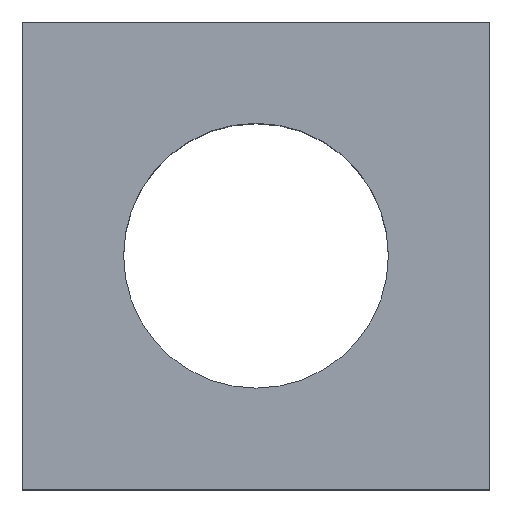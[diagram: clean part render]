
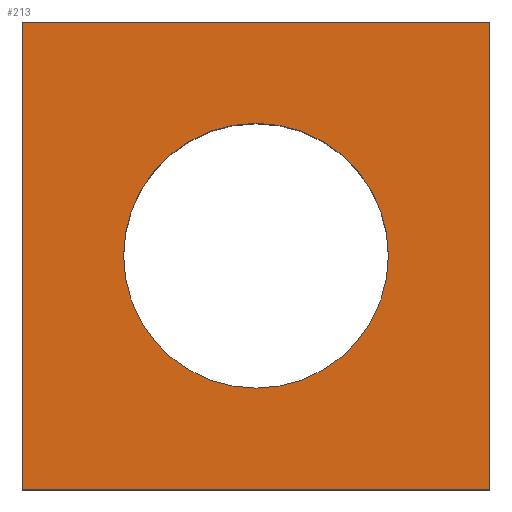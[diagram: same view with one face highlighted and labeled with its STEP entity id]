
A CAD part, top view. The second image highlights one B-rep face of the part: STEP entity #213.
In plain terms, the highlighted planar face has unit normal (0, 0, 1).
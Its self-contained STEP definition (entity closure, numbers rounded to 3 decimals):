
#21 = EDGE_CURVE('',#22,#24,#26,.T.);
#22 = VERTEX_POINT('',#23);
#23 = CARTESIAN_POINT('',(6.,45.,153.));
#24 = VERTEX_POINT('',#25);
#25 = CARTESIAN_POINT('',(6.,39.,153.));
#26 = SURFACE_CURVE('',#27,(#31,#43),.PCURVE_S1.);
#27 = LINE('',#28,#29);
#28 = CARTESIAN_POINT('',(6.,39.,153.));
#29 = VECTOR('',#30,1.);
#30 = DIRECTION('',(0.,-1.,0.));
#31 = PCURVE('',#32,#37);
#32 = PLANE('',#33);
#33 = AXIS2_PLACEMENT_3D('',#34,#35,#36);
#34 = CARTESIAN_POINT('',(6.,39.,149.));
#35 = DIRECTION('',(1.,0.,0.));
#36 = DIRECTION('',(0.,0.,1.));
#37 = DEFINITIONAL_REPRESENTATION('',(#38),#42);
#38 = LINE('',#39,#40);
#39 = CARTESIAN_POINT('',(4.,0.));
#40 = VECTOR('',#41,1.);
#41 = DIRECTION('',(0.,1.));
#42 = ( GEOMETRIC_REPRESENTATION_CONTEXT(2) 
PARAMETRIC_REPRESENTATION_CONTEXT() REPRESENTATION_CONTEXT('2D SPACE',''
  ) );
#43 = PCURVE('',#44,#49);
#44 = PLANE('',#45);
#45 = AXIS2_PLACEMENT_3D('',#46,#47,#48);
#46 = CARTESIAN_POINT('',(6.,39.,153.));
#47 = DIRECTION('',(0.,0.,1.));
#48 = DIRECTION('',(1.,0.,0.));
#49 = DEFINITIONAL_REPRESENTATION('',(#50),#54);
#50 = LINE('',#51,#52);
#51 = CARTESIAN_POINT('',(0.,0.));
#52 = VECTOR('',#53,1.);
#53 = DIRECTION('',(0.,-1.));
#54 = ( GEOMETRIC_REPRESENTATION_CONTEXT(2) 
PARAMETRIC_REPRESENTATION_CONTEXT() REPRESENTATION_CONTEXT('2D SPACE',''
  ) );
#72 = PLANE('',#73);
#73 = AXIS2_PLACEMENT_3D('',#74,#75,#76);
#74 = CARTESIAN_POINT('',(6.,45.,149.));
#75 = DIRECTION('',(0.,1.,0.));
#76 = DIRECTION('',(0.,0.,1.));
#126 = PLANE('',#127);
#127 = AXIS2_PLACEMENT_3D('',#128,#129,#130);
#128 = CARTESIAN_POINT('',(6.,39.,149.));
#129 = DIRECTION('',(0.,1.,0.));
#130 = DIRECTION('',(0.,0.,1.));
#144 = VERTEX_POINT('',#145);
#145 = CARTESIAN_POINT('',(12.,39.,153.));
#159 = PLANE('',#160);
#160 = AXIS2_PLACEMENT_3D('',#161,#162,#163);
#161 = CARTESIAN_POINT('',(12.,39.,149.));
#162 = DIRECTION('',(1.,0.,0.));
#163 = DIRECTION('',(0.,0.,1.));
#171 = EDGE_CURVE('',#24,#144,#172,.T.);
#172 = SURFACE_CURVE('',#173,(#177,#184),.PCURVE_S1.);
#173 = LINE('',#174,#175);
#174 = CARTESIAN_POINT('',(6.,39.,153.));
#175 = VECTOR('',#176,1.);
#176 = DIRECTION('',(1.,0.,0.));
#177 = PCURVE('',#126,#178);
#178 = DEFINITIONAL_REPRESENTATION('',(#179),#183);
#179 = LINE('',#180,#181);
#180 = CARTESIAN_POINT('',(4.,0.));
#181 = VECTOR('',#182,1.);
#182 = DIRECTION('',(0.,1.));
#183 = ( GEOMETRIC_REPRESENTATION_CONTEXT(2) 
PARAMETRIC_REPRESENTATION_CONTEXT() REPRESENTATION_CONTEXT('2D SPACE',''
  ) );
#184 = PCURVE('',#44,#185);
#185 = DEFINITIONAL_REPRESENTATION('',(#186),#190);
#186 = LINE('',#187,#188);
#187 = CARTESIAN_POINT('',(0.,0.));
#188 = VECTOR('',#189,1.);
#189 = DIRECTION('',(1.,0.));
#190 = ( GEOMETRIC_REPRESENTATION_CONTEXT(2) 
PARAMETRIC_REPRESENTATION_CONTEXT() REPRESENTATION_CONTEXT('2D SPACE',''
  ) );
#213 = ADVANCED_FACE('',(#214,#262),#44,.T.);
#214 = FACE_BOUND('',#215,.T.);
#215 = EDGE_LOOP('',(#216,#217,#218,#241));
#216 = ORIENTED_EDGE('',*,*,#21,.T.);
#217 = ORIENTED_EDGE('',*,*,#171,.T.);
#218 = ORIENTED_EDGE('',*,*,#219,.T.);
#219 = EDGE_CURVE('',#144,#220,#222,.T.);
#220 = VERTEX_POINT('',#221);
#221 = CARTESIAN_POINT('',(12.,45.,153.));
#222 = SURFACE_CURVE('',#223,(#227,#234),.PCURVE_S1.);
#223 = LINE('',#224,#225);
#224 = CARTESIAN_POINT('',(12.,39.,153.));
#225 = VECTOR('',#226,1.);
#226 = DIRECTION('',(0.,1.,0.));
#227 = PCURVE('',#44,#228);
#228 = DEFINITIONAL_REPRESENTATION('',(#229),#233);
#229 = LINE('',#230,#231);
#230 = CARTESIAN_POINT('',(6.,0.));
#231 = VECTOR('',#232,1.);
#232 = DIRECTION('',(0.,1.));
#233 = ( GEOMETRIC_REPRESENTATION_CONTEXT(2) 
PARAMETRIC_REPRESENTATION_CONTEXT() REPRESENTATION_CONTEXT('2D SPACE',''
  ) );
#234 = PCURVE('',#159,#235);
#235 = DEFINITIONAL_REPRESENTATION('',(#236),#240);
#236 = LINE('',#237,#238);
#237 = CARTESIAN_POINT('',(4.,0.));
#238 = VECTOR('',#239,1.);
#239 = DIRECTION('',(0.,-1.));
#240 = ( GEOMETRIC_REPRESENTATION_CONTEXT(2) 
PARAMETRIC_REPRESENTATION_CONTEXT() REPRESENTATION_CONTEXT('2D SPACE',''
  ) );
#241 = ORIENTED_EDGE('',*,*,#242,.F.);
#242 = EDGE_CURVE('',#22,#220,#243,.T.);
#243 = SURFACE_CURVE('',#244,(#248,#255),.PCURVE_S1.);
#244 = LINE('',#245,#246);
#245 = CARTESIAN_POINT('',(6.,45.,153.));
#246 = VECTOR('',#247,1.);
#247 = DIRECTION('',(1.,0.,0.));
#248 = PCURVE('',#44,#249);
#249 = DEFINITIONAL_REPRESENTATION('',(#250),#254);
#250 = LINE('',#251,#252);
#251 = CARTESIAN_POINT('',(0.,6.));
#252 = VECTOR('',#253,1.);
#253 = DIRECTION('',(1.,0.));
#254 = ( GEOMETRIC_REPRESENTATION_CONTEXT(2) 
PARAMETRIC_REPRESENTATION_CONTEXT() REPRESENTATION_CONTEXT('2D SPACE',''
  ) );
#255 = PCURVE('',#72,#256);
#256 = DEFINITIONAL_REPRESENTATION('',(#257),#261);
#257 = LINE('',#258,#259);
#258 = CARTESIAN_POINT('',(4.,0.));
#259 = VECTOR('',#260,1.);
#260 = DIRECTION('',(0.,1.));
#261 = ( GEOMETRIC_REPRESENTATION_CONTEXT(2) 
PARAMETRIC_REPRESENTATION_CONTEXT() REPRESENTATION_CONTEXT('2D SPACE',''
  ) );
#262 = FACE_BOUND('',#263,.T.);
#263 = EDGE_LOOP('',(#264));
#264 = ORIENTED_EDGE('',*,*,#265,.F.);
#265 = EDGE_CURVE('',#266,#266,#268,.T.);
#266 = VERTEX_POINT('',#267);
#267 = CARTESIAN_POINT('',(10.7,42.,153.));
#268 = SURFACE_CURVE('',#269,(#274,#281),.PCURVE_S1.);
#269 = CIRCLE('',#270,1.7);
#270 = AXIS2_PLACEMENT_3D('',#271,#272,#273);
#271 = CARTESIAN_POINT('',(9.,42.,153.));
#272 = DIRECTION('',(0.,0.,1.));
#273 = DIRECTION('',(1.,0.,0.));
#274 = PCURVE('',#44,#275);
#275 = DEFINITIONAL_REPRESENTATION('',(#276),#280);
#276 = CIRCLE('',#277,1.7);
#277 = AXIS2_PLACEMENT_2D('',#278,#279);
#278 = CARTESIAN_POINT('',(3.,3.));
#279 = DIRECTION('',(1.,0.));
#280 = ( GEOMETRIC_REPRESENTATION_CONTEXT(2) 
PARAMETRIC_REPRESENTATION_CONTEXT() REPRESENTATION_CONTEXT('2D SPACE',''
  ) );
#281 = PCURVE('',#282,#287);
#282 = CYLINDRICAL_SURFACE('',#283,1.7);
#283 = AXIS2_PLACEMENT_3D('',#284,#285,#286);
#284 = CARTESIAN_POINT('',(9.,42.,148.));
#285 = DIRECTION('',(0.,0.,1.));
#286 = DIRECTION('',(1.,0.,0.));
#287 = DEFINITIONAL_REPRESENTATION('',(#288),#292);
#288 = LINE('',#289,#290);
#289 = CARTESIAN_POINT('',(0.,5.));
#290 = VECTOR('',#291,1.);
#291 = DIRECTION('',(1.,0.));
#292 = ( GEOMETRIC_REPRESENTATION_CONTEXT(2) 
PARAMETRIC_REPRESENTATION_CONTEXT() REPRESENTATION_CONTEXT('2D SPACE',''
  ) );
